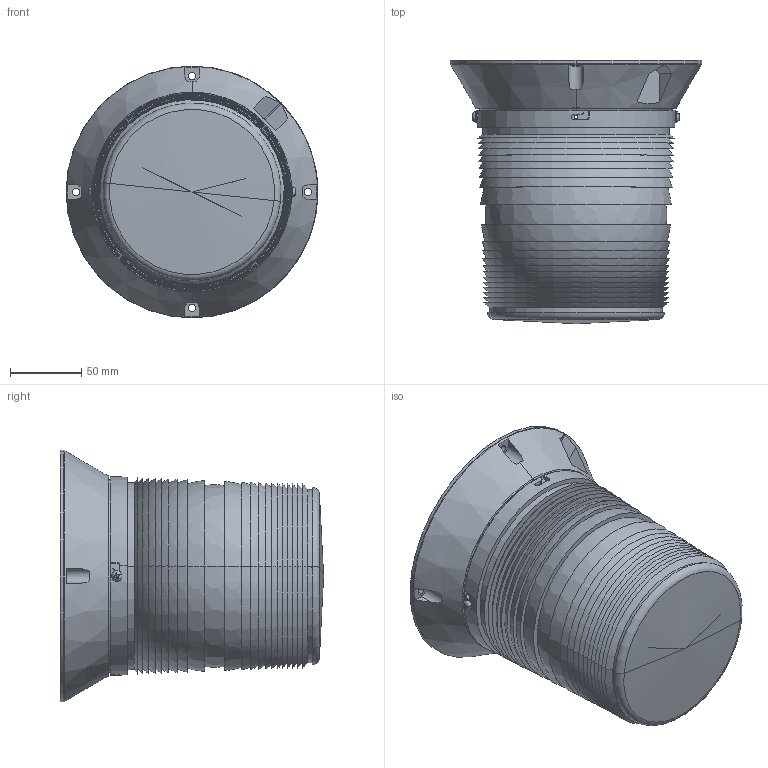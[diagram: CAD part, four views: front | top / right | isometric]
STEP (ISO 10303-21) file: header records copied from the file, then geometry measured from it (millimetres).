
FILE_DESCRIPTION (( 'STEP AP214' ), '1' );
FILE_NAME ('PMF 20xx direct mounting .STEP', '2010-11-10T13:41:55', ( ' ' ), ( ' ' ), 'SwSTEP 2.0', 'SolidWorks 2010', '' );
FILE_SCHEMA (( 'AUTOMOTIVE_DESIGN' ));
Length unit declared in the file: millimetre
Products named in the file (1): PMF 20xx direct mounting 
Bounding box: 177 x 185 x 177 mm (x, y, z)
Surface area: 249372.3 mm2 (no closed solid volume)
Topology: 0 solids, 15 shells, 316 faces, 942 edges, 654 vertices
Faces by surface type: plane 125, cylinder 71, torus 64, cone 52, bspline 4
Entity records: 15642 total; most frequent: CARTESIAN_POINT 3767, DIRECTION 1767, ORIENTED_EDGE 1654, EDGE_CURVE 940, AXIS2_PLACEMENT_3D 742, VERTEX_POINT 654, CIRCLE 429, EDGE_LOOP 383
